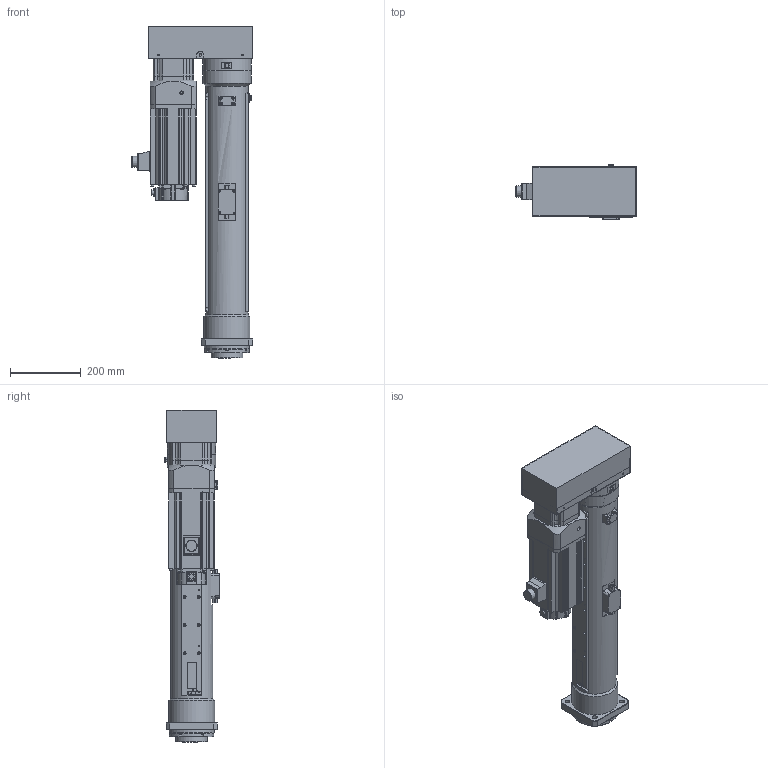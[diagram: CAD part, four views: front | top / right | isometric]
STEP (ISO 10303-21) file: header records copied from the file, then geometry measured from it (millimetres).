
FILE_DESCRIPTION( ('This file contains a STEP AP42 implementation' ,'as created by ZW3D STEP Interface translator.') ,'2;1' );
FILE_NAME( 'OACIS-DC-P050-550-200-A6V220_V20.01.stp' ,'25 421.135253', (''), ('ZWCAD Software Co.'), 'Version 1.0', 'ZW3D to STEP translator', '' );
FILE_SCHEMA(('AUTOMOTIVE_DESIGN { 1 0 10303 214 1 1 1 1 }'));
Length unit declared in the file: millimetre
Products named in the file (1): 0
Bounding box: 343 x 155 x 941 mm (x, y, z)
Volume: 15370670 mm3; surface area: 2341457.1 mm2
Topology: 50 solids, 55 shells, 3400 faces, 8684 edges, 5534 vertices
Faces by surface type: cylinder 1633, plane 1247, cone 287, bspline 132, torus 97, sphere 4
Full cylindrical faces by diameter (mm): 1.567 x4, 2 x1, 2.459 x1, 3.3 x95, 4.2 x4, 4.3 x31, 4.5 x14, 4.917 x20, 5 x1, 5.3 x4, 5.5 x4, 6 x8, 6.5 x4, 6.8 x41, 7 x4, 8 x31, 8.4 x8, 8.5 x4, 9 x22, 9.5 x4, 9.78 x8, 10 x3, 10.1 x4, 10.2 x16, 10.5 x4, 12 x1, 14 x4, 14.8 x1, 15 x8, 16.5 x2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
Entity records: 113795 total; most frequent: CARTESIAN_POINT 23147, DIRECTION 18805, ORIENTED_EDGE 17139, EDGE_CURVE 8577, AXIS2_PLACEMENT_3D 7465, VERTEX_POINT 5531, CIRCLE 4176, EDGE_LOOP 4066
